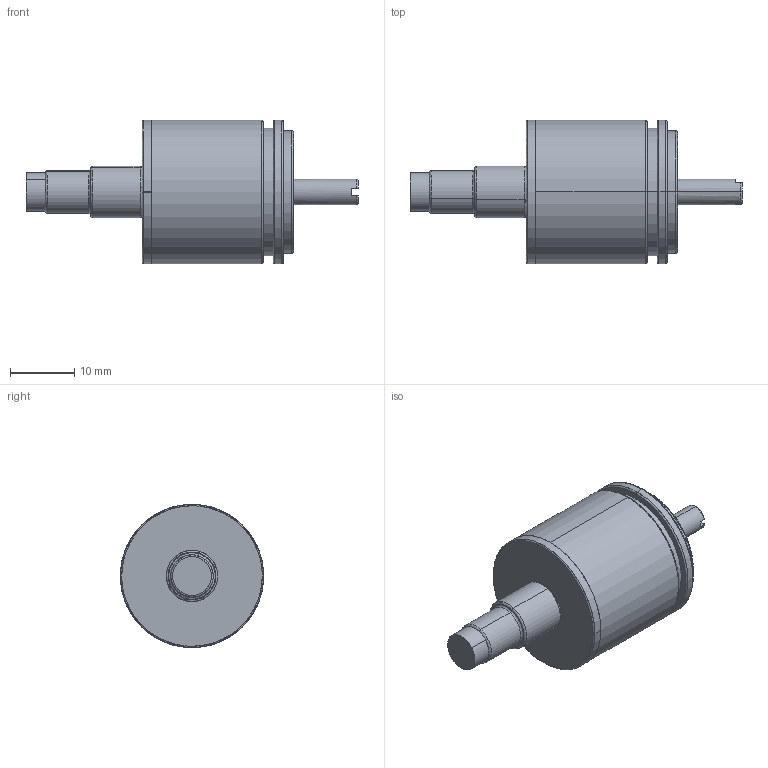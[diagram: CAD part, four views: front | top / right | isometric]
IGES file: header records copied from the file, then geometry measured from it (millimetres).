
Start section: SolidWorks IGES file using analytic representation for surfaces
Global section: file name: O:\08-Produkte_DatBlät&Beiblät&PrLi&Appl&Wettb\8-1 Megatron\8-1-11 Drehgeber\8-1-11-1 Datenblätter\MAB22\3-D-Daten\MAB22_axial.IGS; native system: SolidWorks 2007; preprocessor: SolidWorks 2007; author: AlessandroC; date: 110926.095930; units: millimetre
Bounding box: 51.5 x 22.23 x 22.23 mm (x, y, z)
Surface area: 3665.5 mm2 (no closed solid volume)
Topology: 0 solids, 0 shells, 83 faces, 1147 edges, 1147 vertices
Faces by surface type: bspline 45, revolution 38
